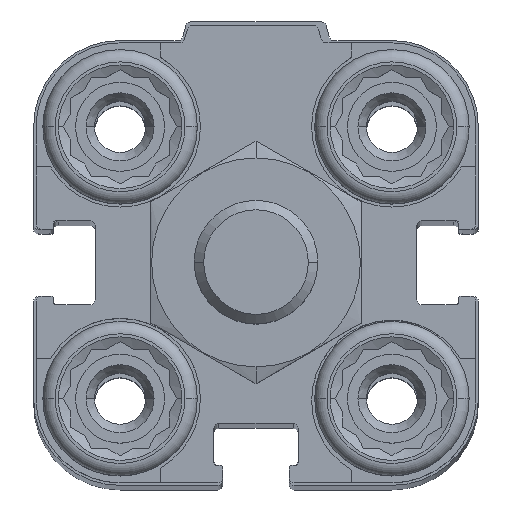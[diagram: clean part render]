
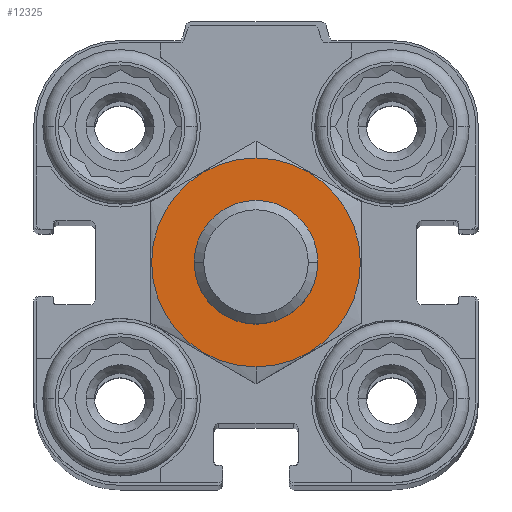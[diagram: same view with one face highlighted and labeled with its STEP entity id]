
A CAD part, top view. The second image highlights one B-rep face of the part: STEP entity #12325.
In plain terms, the highlighted planar face has unit normal (0, 0, 1).
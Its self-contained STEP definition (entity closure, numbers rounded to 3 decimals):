
#498 = CIRCLE ( 'NONE', #5758, 8.45 ) ;
#650 = CIRCLE ( 'NONE', #4262, 5. ) ;
#1488 = CARTESIAN_POINT ( 'NONE',  ( 0., 0., 13.5 ) ) ;
#1891 = VERTEX_POINT ( 'NONE', #20225 ) ;
#1997 = DIRECTION ( 'NONE',  ( 0., -1., 0. ) ) ;
#2174 = CARTESIAN_POINT ( 'NONE',  ( 0., 0., 13.5 ) ) ;
#2220 = VERTEX_POINT ( 'NONE', #4550 ) ;
#2793 = CIRCLE ( 'NONE', #17265, 8.45 ) ;
#2938 = DIRECTION ( 'NONE',  ( 0., -1., 0. ) ) ;
#4062 = CARTESIAN_POINT ( 'NONE',  ( 0., 0., 13.5 ) ) ;
#4235 = ORIENTED_EDGE ( 'NONE', *, *, #16510, .T. ) ;
#4262 = AXIS2_PLACEMENT_3D ( 'NONE', #9747, #14183, #17260 ) ;
#4550 = CARTESIAN_POINT ( 'NONE',  ( 0., -5., 13.5 ) ) ;
#4699 = CARTESIAN_POINT ( 'NONE',  ( 0., -8.45, 13.5 ) ) ;
#4929 = ORIENTED_EDGE ( 'NONE', *, *, #4966, .T. ) ;
#4966 = EDGE_CURVE ( 'NONE', #2220, #5913, #650, .T. ) ;
#5058 = ORIENTED_EDGE ( 'NONE', *, *, #8676, .F. ) ;
#5084 = FACE_OUTER_BOUND ( 'NONE', #20302, .T. ) ;
#5758 = AXIS2_PLACEMENT_3D ( 'NONE', #1488, #7774, #2938 ) ;
#5913 = VERTEX_POINT ( 'NONE', #19546 ) ;
#6253 = ORIENTED_EDGE ( 'NONE', *, *, #7260, .F. ) ;
#6858 = EDGE_LOOP ( 'NONE', ( #4235, #4929 ) ) ;
#7260 = EDGE_CURVE ( 'NONE', #20176, #1891, #498, .T. ) ;
#7774 = DIRECTION ( 'NONE',  ( 0., 0., -1. ) ) ;
#8278 = DIRECTION ( 'NONE',  ( 0., 0., -1. ) ) ;
#8585 = PLANE ( 'NONE',  #15748 ) ;
#8676 = EDGE_CURVE ( 'NONE', #1891, #20176, #2793, .T. ) ;
#9343 = DIRECTION ( 'NONE',  ( 0., -1., 0. ) ) ;
#9747 = CARTESIAN_POINT ( 'NONE',  ( 0., 0., 13.5 ) ) ;
#9955 = DIRECTION ( 'NONE',  ( 0., -1., 0. ) ) ;
#10029 = CARTESIAN_POINT ( 'NONE',  ( 0., 0., 13.5 ) ) ;
#11185 = AXIS2_PLACEMENT_3D ( 'NONE', #2174, #13968, #9343 ) ;
#12325 = ADVANCED_FACE ( 'NONE', ( #5084, #13110 ), #8585, .F. ) ;
#13110 = FACE_BOUND ( 'NONE', #6858, .T. ) ;
#13968 = DIRECTION ( 'NONE',  ( 0., 0., -1. ) ) ;
#14183 = DIRECTION ( 'NONE',  ( 0., 0., -1. ) ) ;
#14450 = CIRCLE ( 'NONE', #11185, 5. ) ;
#15748 = AXIS2_PLACEMENT_3D ( 'NONE', #10029, #8278, #1997 ) ;
#16510 = EDGE_CURVE ( 'NONE', #5913, #2220, #14450, .T. ) ;
#17260 = DIRECTION ( 'NONE',  ( 0., -1., 0. ) ) ;
#17265 = AXIS2_PLACEMENT_3D ( 'NONE', #4062, #17769, #9955 ) ;
#17769 = DIRECTION ( 'NONE',  ( 0., 0., -1. ) ) ;
#19546 = CARTESIAN_POINT ( 'NONE',  ( 0., 5., 13.5 ) ) ;
#20176 = VERTEX_POINT ( 'NONE', #4699 ) ;
#20225 = CARTESIAN_POINT ( 'NONE',  ( 0., 8.45, 13.5 ) ) ;
#20302 = EDGE_LOOP ( 'NONE', ( #6253, #5058 ) ) ;
